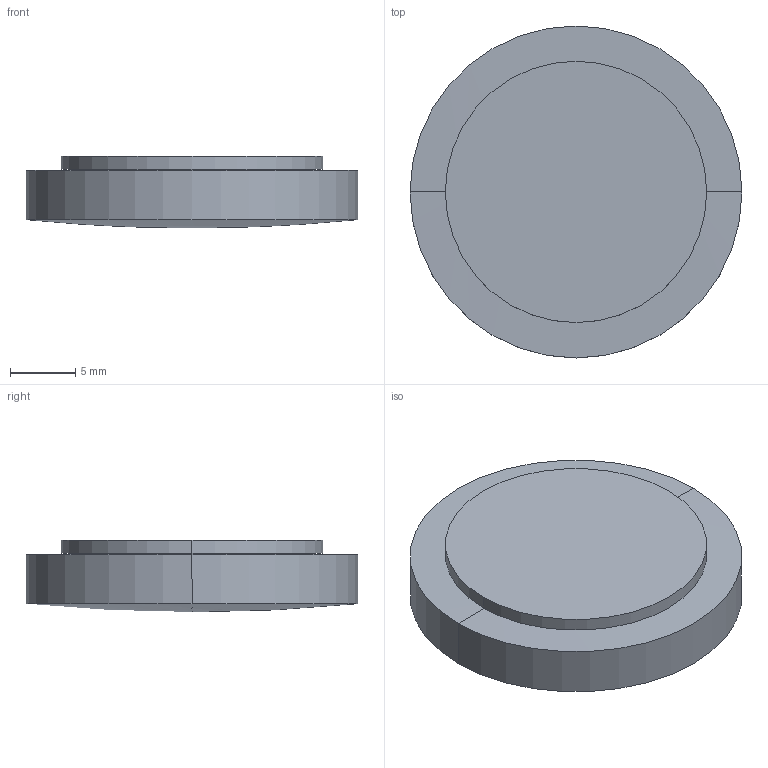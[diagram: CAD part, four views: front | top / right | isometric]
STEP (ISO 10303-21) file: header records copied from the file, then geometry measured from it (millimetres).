
FILE_DESCRIPTION(('STEP AP214'),'1');
FILE_NAME('LLQ-25240.STEP','2020-03-09T17:41:47',(' '),(' '),'Spatial InterOp 3D',' ',' ');
FILE_SCHEMA(('AUTOMOTIVE_DESIGN { 1 0 10303 214 1 1 1 1 }'));
Length unit declared in the file: millimetre
Products named in the file (1): 1
Bounding box: 25.4 x 25.4 x 5.5 mm (x, y, z)
Volume: 2406.1 mm3; surface area: 2005.6 mm2
Topology: 2 solids, 2 shells, 10 faces, 20 edges, 10 vertices
Faces by surface type: sphere 4, cylinder 4, plane 2
Entity records: 255 total; most frequent: DIRECTION 52, CARTESIAN_POINT 38, ORIENTED_EDGE 32, AXIS2_PLACEMENT_3D 24, EDGE_CURVE 16, CIRCLE 12, ADVANCED_FACE 10, FACE_OUTER_BOUND 10
